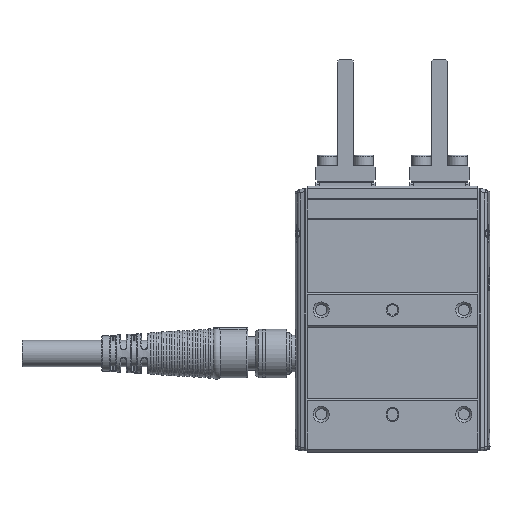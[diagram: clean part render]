
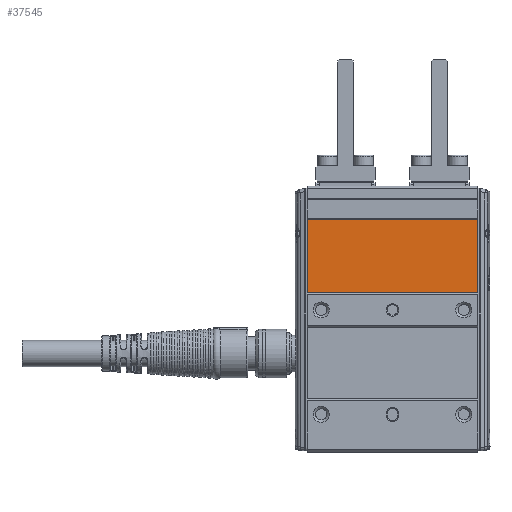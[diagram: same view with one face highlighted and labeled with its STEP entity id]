
A CAD part, front view. The second image highlights one B-rep face of the part: STEP entity #37545.
In plain terms, the highlighted planar face has unit normal (0, -1, 0).
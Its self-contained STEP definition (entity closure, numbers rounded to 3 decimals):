
#7616=FACE_OUTER_BOUND('',#9813,.T.);
#9813=EDGE_LOOP('',(#32707,#32708,#32709,#32710));
#12189=LINE('',#71928,#14669);
#12199=LINE('',#71977,#14679);
#12348=LINE('',#72643,#14828);
#12357=LINE('',#72660,#14837);
#14669=VECTOR('',#50057,10.);
#14679=VECTOR('',#50097,10.);
#14828=VECTOR('',#50758,10.);
#14837=VECTOR('',#50783,10.);
#17892=VERTEX_POINT('',#71925);
#17893=VERTEX_POINT('',#71927);
#17916=VERTEX_POINT('',#71974);
#17917=VERTEX_POINT('',#71976);
#22770=EDGE_CURVE('',#17892,#17893,#12189,.T.);
#22794=EDGE_CURVE('',#17916,#17917,#12199,.T.);
#23097=EDGE_CURVE('',#17916,#17893,#12348,.T.);
#23106=EDGE_CURVE('',#17892,#17917,#12357,.T.);
#32707=ORIENTED_EDGE('',*,*,#23106,.T.);
#32708=ORIENTED_EDGE('',*,*,#22794,.F.);
#32709=ORIENTED_EDGE('',*,*,#23097,.T.);
#32710=ORIENTED_EDGE('',*,*,#22770,.F.);
#35790=PLANE('',#41371);
#37545=ADVANCED_FACE('',(#7616),#35790,.T.);
#41371=AXIS2_PLACEMENT_3D('',#72669,#50798,#50799);
#50057=DIRECTION('',(0.,0.,1.));
#50097=DIRECTION('',(0.,0.,-1.));
#50758=DIRECTION('',(-1.,0.,0.));
#50783=DIRECTION('',(1.,0.,0.));
#50798=DIRECTION('center_axis',(0.,-1.,0.));
#50799=DIRECTION('ref_axis',(0.,0.,
-1.));
#71925=CARTESIAN_POINT('',(-24.5,-13.5,46.));
#71927=CARTESIAN_POINT('',(-24.5,-13.5,67.));
#71928=CARTESIAN_POINT('',(-24.5,-13.5,76.5));
#71974=CARTESIAN_POINT('',(24.5,-13.5,67.));
#71976=CARTESIAN_POINT('',(24.5,-13.5,46.));
#71977=CARTESIAN_POINT('',(24.5,-13.5,76.5));
#72643=CARTESIAN_POINT('',(0.,-13.5,67.));
#72660=CARTESIAN_POINT('',(0.,-13.5,46.));
#72669=CARTESIAN_POINT('Origin',(0.,-13.5,76.5));
